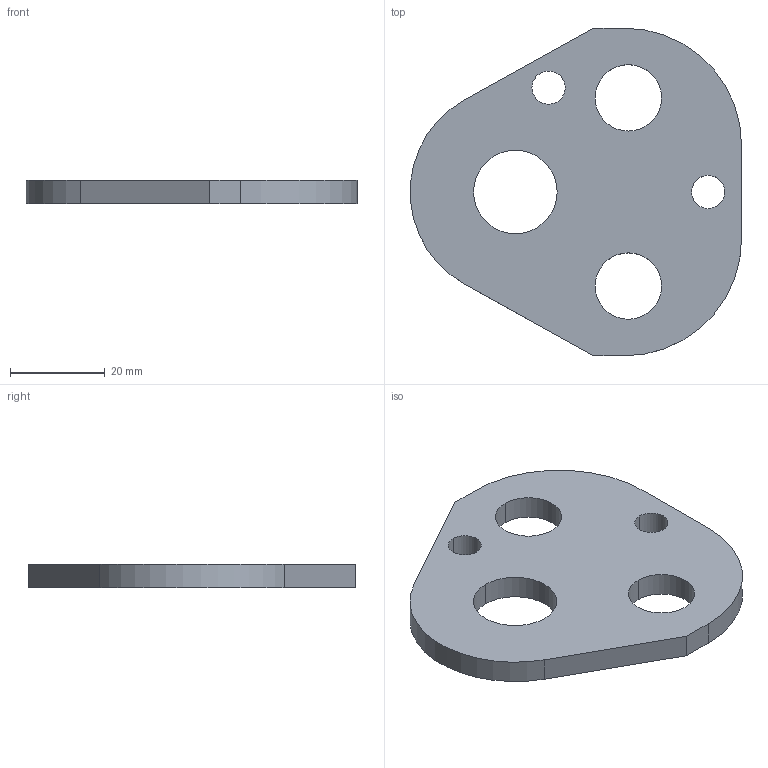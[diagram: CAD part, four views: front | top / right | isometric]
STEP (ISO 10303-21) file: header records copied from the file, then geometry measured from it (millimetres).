
FILE_DESCRIPTION(/* description */ (''),/* implementation_level */ '2;1');
FILE_NAME(/* name */ '3d_crnbd25_03634_r00.stp',/* time_stamp */ '2011-01-10T14:16:19+09:00',/* author */ ('MISUMI'),/* organization */ (''),/* preprocessor_version */ 'ST-DEVELOPER v11',/* originating_system */ 'UGS - NX 5.0',/* authorisation */ '');
FILE_SCHEMA (('CONFIG_CONTROL_DESIGN'));
Length unit declared in the file: millimetre
Products named in the file (1): 3d_crnbd25_03634_r00
Bounding box: 69.83 x 69.1 x 5 mm (x, y, z)
Volume: 15261.8 mm3; surface area: 8140.5 mm2
Topology: 1 solids, 1 shells, 20 faces, 54 edges, 36 vertices
Faces by surface type: cylinder 13, plane 7
Entity records: 750 total; most frequent: DIRECTION 122, CARTESIAN_POINT 111, ORIENTED_EDGE 108, EDGE_CURVE 54, AXIS2_PLACEMENT_3D 47, VERTEX_POINT 36, EDGE_LOOP 30, LINE 28
